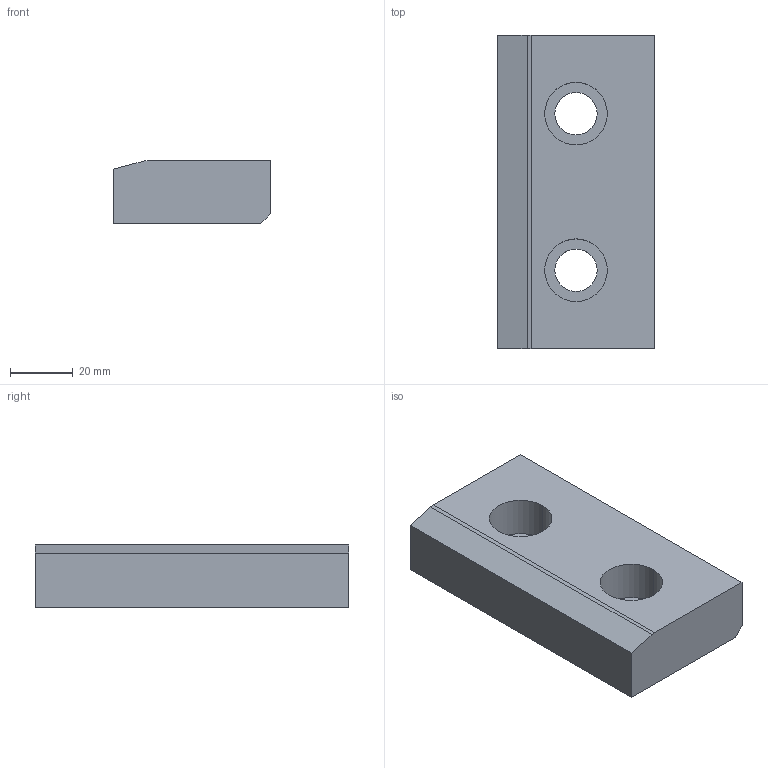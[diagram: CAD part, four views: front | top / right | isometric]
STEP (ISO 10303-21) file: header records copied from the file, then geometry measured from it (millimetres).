
FILE_DESCRIPTION (( 'STEP AP214' ), '1' );
FILE_NAME ('SW225-01-100x50.STEP', '2020-10-21T10:04:13', ( 'August' ), ( '' ), 'SwSTEP 2.0', 'SolidWorks 2018', '' );
FILE_SCHEMA (( 'AUTOMOTIVE_DESIGN' ));
Length unit declared in the file: millimetre
Products named in the file (1): SW225-01-100x50
Bounding box: 50 x 100 x 20 mm (x, y, z)
Volume: 88036.3 mm3; surface area: 17209.8 mm2
Topology: 1 solids, 1 shells, 19 faces, 45 edges, 30 vertices
Faces by surface type: plane 10, cylinder 9
Entity records: 599 total; most frequent: DIRECTION 103, CARTESIAN_POINT 95, ORIENTED_EDGE 90, EDGE_CURVE 45, AXIS2_PLACEMENT_3D 38, VERTEX_POINT 30, VECTOR 27, LINE 27
